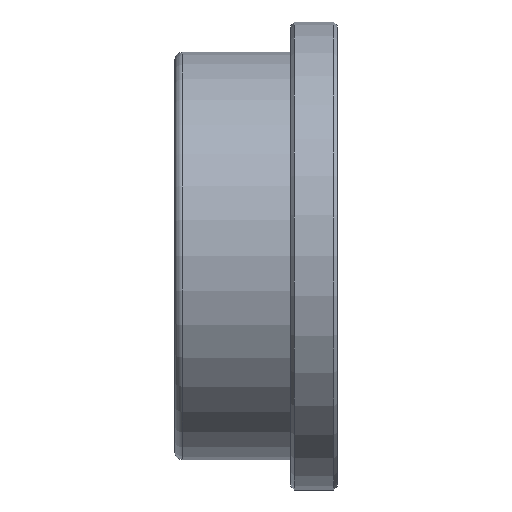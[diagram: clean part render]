
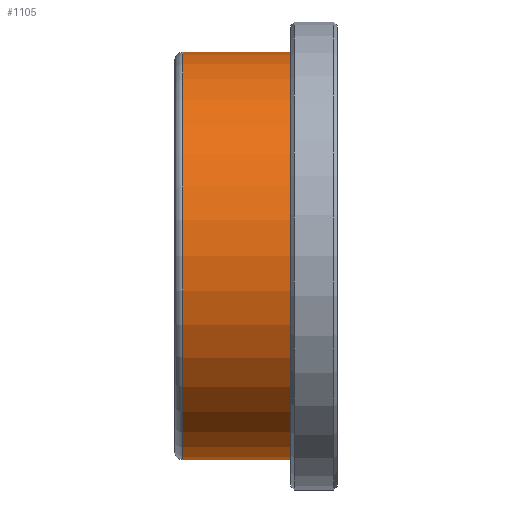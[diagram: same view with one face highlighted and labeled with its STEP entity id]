
A CAD part, top view. The second image highlights one B-rep face of the part: STEP entity #1105.
In plain terms, the highlighted cylindrical face has radius 3.969 mm (diameter 7.938 mm), a partial arc.
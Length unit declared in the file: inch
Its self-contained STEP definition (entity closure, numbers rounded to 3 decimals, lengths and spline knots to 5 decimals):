
#279=CARTESIAN_POINT('',(0.0265,0.,0.));
#280=DIRECTION('',(1.,0.,0.));
#281=DIRECTION('',(0.,1.,0.));
#282=AXIS2_PLACEMENT_3D('',#279,#280,#281);
#284=DIRECTION('',(-1.,0.,0.));
#285=VECTOR('',#284,0.08275);
#286=CARTESIAN_POINT('',(0.0265,0.15625,0.));
#287=LINE('',#286,#285);
#288=DIRECTION('',(-1.,0.,0.));
#289=VECTOR('',#288,0.08275);
#290=CARTESIAN_POINT('',(0.0265,-0.15625,0.));
#291=LINE('',#290,#289);
#312=CARTESIAN_POINT('',(-0.05625,0.,0.));
#313=DIRECTION('',(1.,0.,0.));
#314=DIRECTION('',(0.,1.,0.));
#315=AXIS2_PLACEMENT_3D('',#312,#313,#314);
#525=CARTESIAN_POINT('',(0.0265,0.15625,0.));
#526=CARTESIAN_POINT('',(-0.05625,0.15625,0.));
#527=VERTEX_POINT('',#525);
#528=VERTEX_POINT('',#526);
#545=CARTESIAN_POINT('',(0.0265,-0.15625,0.));
#546=CARTESIAN_POINT('',(-0.05625,-0.15625,0.));
#547=VERTEX_POINT('',#545);
#548=VERTEX_POINT('',#546);
#1091=CARTESIAN_POINT('',(-0.06875,0.,0.));
#1092=DIRECTION('',(1.,0.,0.));
#1093=DIRECTION('',(0.,-1.,0.));
#1094=AXIS2_PLACEMENT_3D('',#1091,#1092,#1093);
#1095=CYLINDRICAL_SURFACE('',#1094,0.15625);
#1097=ORIENTED_EDGE('',*,*,#1096,.F.);
#1098=ORIENTED_EDGE('',*,*,#1084,.T.);
#1100=ORIENTED_EDGE('',*,*,#1099,.T.);
#1102=ORIENTED_EDGE('',*,*,#1101,.F.);
#1103=EDGE_LOOP('',(#1097,#1098,#1100,#1102));
#1104=FACE_OUTER_BOUND('',#1103,.F.);
#1105=ADVANCED_FACE('',(#1104),#1095,.T.);
#283=CIRCLE('',#282,0.15625);
#316=CIRCLE('',#315,0.15625);
#1084=EDGE_CURVE('',#527,#547,#283,.T.);
#1096=EDGE_CURVE('',#527,#528,#287,.T.);
#1099=EDGE_CURVE('',#547,#548,#291,.T.);
#1101=EDGE_CURVE('',#528,#548,#316,.T.);
